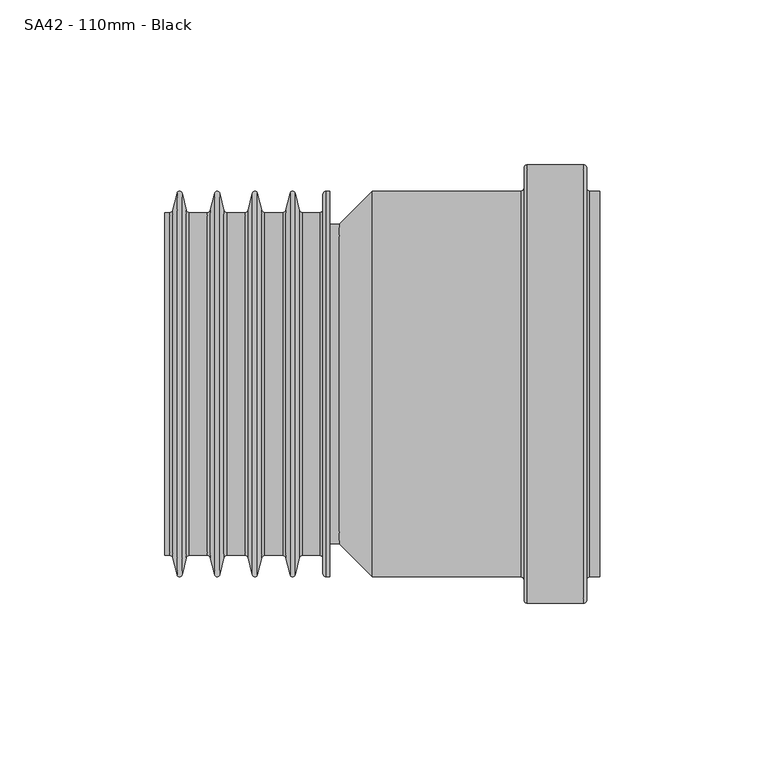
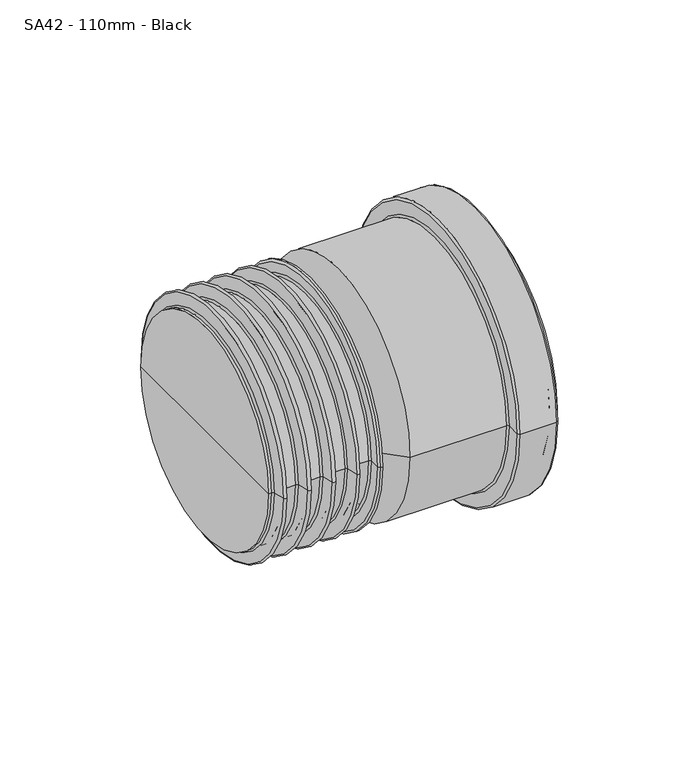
"""IFC4 building model written with IfcOpenShell, lengths in millimetres: pipe fitting geometry, MarleyPlumbingAndDrainage_PipeFitting_SoilDrainAdaptor : SA42 - 110mm - Black."""

from ifc_helpers import new_model, si_unit, point, frame, origin, place, context, project, spatial, polyline, circle_curve, ellipse_curve, trimmed, source, transform, mapped, element, save
from ifc_brep_helpers import plane_surface, cylinder_surface, revolved_surface, advanced_brep


def sa42_110mm_black_3e7455d2(model_context):
    return source(origin(), model_context, "Body", "AdvancedBrep", [
        advanced_brep(
        [(-18.8253818, -58.5, 0.0), (-18.8253818, 58.5, 0.0), (-17.8253818, 58.5, 0.0), (-17.8253818, -58.5, 0.0), (-19.8253818, -53.0, 0.0), (-19.8253818, 53.0, 0.0), (-19.8253818, 57.5, 0.0), (-19.8253818, -57.5, 0.0), (-26.0259977, -52.0, 0.0), (-26.0259977, 52.0, 0.0), (-20.8253818, 52.0, 0.0), (-20.8253818, -52.0, 0.0), (-28.2806136, -57.909205, 0.0), (-28.2806136, 57.909205, 0.0), (-26.9962935, 52.7580781, 0.0), (-26.9962935, -52.7580781, 0.0), (-31.0772708, -52.7580781, 0.0), (-31.0772708, 52.7580781, 0.0), (-29.7929506, 57.909205, 0.0), (-29.7929506, -57.909205, 0.0), (-37.4668968, -52.0, 0.0), (-37.4668968, 52.0, 0.0), (-32.0475665, 52.0, 0.0), (-32.0475665, -52.0, 0.0), (-67.8253818, 0.0, 0.0), (-67.8253818, 52.0, 0.0), (-67.8253818, -52.0, 0.0), (-17.8253818, 0.0, 0.0), (-38.4371925, -52.7580781, 0.0), (-38.4371925, 52.7580781, 0.0), (-39.7215127, -57.909205, 0.0), (-39.7215127, 57.909205, 0.0), (-41.2338496, -57.909205, 0.0), (-41.2338496, 57.909205, 0.0), (-42.5181698, -52.7580781, 0.0), (-42.5181698, 52.7580781, 0.0), (-43.4884655, -52.0, 0.0), (-43.4884655, 52.0, 0.0), (-48.9077958, -52.0, 0.0), (-48.9077958, 52.0, 0.0), (-49.8780915, -52.7580781, 0.0), (-49.8780915, 52.7580781, 0.0), (-51.1624117, -57.909205, 0.0), (-51.1624117, 57.909205, 0.0), (-52.6747486, -57.909205, 0.0), (-52.6747486, 57.909205, 0.0), (-53.9590688, -52.7580781, 0.0), (-53.9590688, 52.7580781, 0.0), (-54.9293645, -52.0, 0.0), (-54.9293645, 52.0, 0.0), (-60.3486948, -52.0, 0.0), (-60.3486948, 52.0, 0.0), (-61.3189905, -52.7580781, 0.0), (-61.3189905, 52.7580781, 0.0), (-62.6033107, -57.909205, 0.0), (-62.6033107, 57.909205, 0.0), (-64.1156477, -57.909205, 0.0), (-64.1156477, 57.909205, 0.0), (-65.3999678, -52.7580781, 0.0), (-65.3999678, 52.7580781, 0.0), (-66.3702636, -52.0, 0.0), (-66.3702636, 52.0, 0.0)],
        [
            (0, 1, circle_curve(frame((-18.8253818, 0.0, 0.0), z_axis=(1.0, 0.0, 0.0), x_axis=(0.0, 1.0, 0.0)), 58.5)),
            (1, 2),
            (2, 3, circle_curve(frame((-17.8253818, 0.0, 0.0), z_axis=(-1.0, 0.0, 0.0), x_axis=(0.0, 1.0, 0.0)), 58.5)),
            (3, 0),
            (1, 0, circle_curve(frame((-18.8253818, 0.0, 0.0), z_axis=(1.0, 0.0, 0.0), x_axis=(0.0, 1.0, 0.0)), 58.5)),
            (3, 2, circle_curve(frame((-17.8253818, 0.0, 0.0), z_axis=(-1.0, 0.0, 0.0), x_axis=(0.0, 1.0, 0.0)), 58.5)),
            (4, 5, circle_curve(frame((-19.8253818, 0.0, 0.0), z_axis=(1.0, 0.0, 0.0), x_axis=(0.0, 1.0, 0.0)), 53.0)),
            (5, 6),
            (6, 7, circle_curve(frame((-19.8253818, 0.0, 0.0), z_axis=(-1.0, 0.0, 0.0), x_axis=(0.0, 1.0, 0.0)), 57.5)),
            (7, 4),
            (5, 4, circle_curve(frame((-19.8253818, 0.0, 0.0), z_axis=(1.0, 0.0, 0.0), x_axis=(0.0, 1.0, 0.0)), 53.0)),
            (7, 6, circle_curve(frame((-19.8253818, 0.0, 0.0), z_axis=(-1.0, 0.0, 0.0), x_axis=(0.0, 1.0, 0.0)), 57.5)),
            (8, 9, circle_curve(frame((-26.0259977, 0.0, 0.0), z_axis=(1.0, 0.0, 0.0), x_axis=(0.0, 1.0, 0.0)), 52.0)),
            (9, 10),
            (10, 11, circle_curve(frame((-20.8253818, 0.0, 0.0), z_axis=(-1.0, 0.0, 0.0), x_axis=(0.0, 1.0, 0.0)), 52.0)),
            (11, 8),
            (9, 8, circle_curve(frame((-26.0259977, 0.0, 0.0), z_axis=(1.0, 0.0, 0.0), x_axis=(0.0, 1.0, 0.0)), 52.0)),
            (11, 10, circle_curve(frame((-20.8253818, 0.0, 0.0), z_axis=(-1.0, 0.0, 0.0), x_axis=(0.0, 1.0, 0.0)), 52.0)),
            (12, 13, circle_curve(frame((-28.2806136, 0.0, 0.0), z_axis=(1.0, 0.0, 0.0), x_axis=(0.0, 1.0, 0.0)), 57.909205)),
            (13, 14),
            (14, 15, circle_curve(frame((-26.9962935, 0.0, 0.0), z_axis=(-1.0, 0.0, 0.0), x_axis=(0.0, 1.0, 0.0)), 52.7580781)),
            (15, 12),
            (13, 12, circle_curve(frame((-28.2806136, 0.0, 0.0), z_axis=(1.0, 0.0, 0.0), x_axis=(0.0, 1.0, 0.0)), 57.909205)),
            (15, 14, circle_curve(frame((-26.9962935, 0.0, 0.0), z_axis=(-1.0, 0.0, 0.0), x_axis=(0.0, 1.0, 0.0)), 52.7580781)),
            (16, 17, circle_curve(frame((-31.0772708, 0.0, 0.0), z_axis=(1.0, 0.0, 0.0), x_axis=(0.0, 1.0, 0.0)), 52.7580781)),
            (17, 18),
            (18, 19, circle_curve(frame((-29.7929506, 0.0, 0.0), z_axis=(-1.0, 0.0, 0.0), x_axis=(0.0, 1.0, 0.0)), 57.909205)),
            (19, 16),
            (17, 16, circle_curve(frame((-31.0772708, 0.0, 0.0), z_axis=(1.0, 0.0, 0.0), x_axis=(0.0, 1.0, 0.0)), 52.7580781)),
            (19, 18, circle_curve(frame((-29.7929506, 0.0, 0.0), z_axis=(-1.0, 0.0, 0.0), x_axis=(0.0, 1.0, 0.0)), 57.909205)),
            (20, 21, circle_curve(frame((-37.4668968, 0.0, 0.0), z_axis=(1.0, 0.0, 0.0), x_axis=(0.0, 1.0, 0.0)), 52.0)),
            (21, 22),
            (22, 23, circle_curve(frame((-32.0475665, 0.0, 0.0), z_axis=(-1.0, 0.0, 0.0), x_axis=(0.0, 1.0, 0.0)), 52.0)),
            (23, 20),
            (21, 20, circle_curve(frame((-37.4668968, 0.0, 0.0), z_axis=(1.0, 0.0, 0.0), x_axis=(0.0, 1.0, 0.0)), 52.0)),
            (23, 22, circle_curve(frame((-32.0475665, 0.0, 0.0), z_axis=(-1.0, 0.0, 0.0), x_axis=(0.0, 1.0, 0.0)), 52.0)),
            (24, 25),
            (25, 26, circle_curve(frame((-67.8253818, 0.0, 0.0), z_axis=(-1.0, 0.0, 0.0), x_axis=(0.0, 1.0, 0.0)), 52.0)),
            (26, 24),
            (26, 25, circle_curve(frame((-67.8253818, 0.0, 0.0), z_axis=(-1.0, 0.0, 0.0), x_axis=(0.0, 1.0, 0.0)), 52.0)),
            (2, 27),
            (27, 3),
            (6, 1, circle_curve(frame((-18.8253818, 57.5, 0.0), z_axis=(0.0, 0.0, -1.0), x_axis=(1.0, 0.0, 0.0)), 1.0)),
            (0, 7, circle_curve(frame((-18.8253818, -57.5, 0.0), z_axis=(0.0, 0.0, -1.0), x_axis=(1.0, 0.0, 0.0)), 1.0)),
            (10, 5, circle_curve(frame((-20.8253818, 53.0, 0.0), z_axis=(0.0, 0.0, 1.0), x_axis=(1.0, 0.0, 0.0)), 1.0)),
            (4, 11, circle_curve(frame((-20.8253818, -53.0, 0.0), z_axis=(0.0, 0.0, 1.0), x_axis=(1.0, 0.0, 0.0)), 1.0)),
            (14, 9, circle_curve(frame((-26.0259977, 53.0, 0.0), z_axis=(0.0, 0.0, 1.0), x_axis=(1.0, 0.0, 0.0)), 1.0)),
            (8, 15, circle_curve(frame((-26.0259977, -53.0, 0.0), z_axis=(0.0, 0.0, 1.0), x_axis=(1.0, 0.0, 0.0)), 1.0)),
            (18, 13, circle_curve(frame((-29.0367821, 57.720671, 0.0), z_axis=(0.0, 0.0, -1.0), x_axis=(1.0, 0.0, 0.0)), 0.7793175)),
            (12, 19, circle_curve(frame((-29.0367821, -57.720671, 0.0), z_axis=(0.0, 0.0, -1.0), x_axis=(1.0, 0.0, 0.0)), 0.7793175)),
            (22, 17, circle_curve(frame((-32.0475665, 53.0, 0.0), z_axis=(0.0, 0.0, 1.0), x_axis=(1.0, 0.0, 0.0)), 1.0)),
            (16, 23, circle_curve(frame((-32.0475665, -53.0, 0.0), z_axis=(0.0, 0.0, 1.0), x_axis=(1.0, 0.0, 0.0)), 1.0)),
            (28, 29, circle_curve(frame((-38.4371925, 0.0, 0.0), z_axis=(1.0, 0.0, 0.0), x_axis=(0.0, 1.0, 0.0)), 52.7580781)),
            (29, 21, circle_curve(frame((-37.4668968, 53.0, 0.0), z_axis=(0.0, 0.0, 1.0), x_axis=(1.0, 0.0, 0.0)), 1.0)),
            (20, 28, circle_curve(frame((-37.4668968, -53.0, 0.0), z_axis=(0.0, 0.0, 1.0), x_axis=(1.0, 0.0, 0.0)), 1.0)),
            (29, 28, circle_curve(frame((-38.4371925, 0.0, 0.0), z_axis=(1.0, 0.0, 0.0), x_axis=(0.0, 1.0, 0.0)), 52.7580781)),
            (30, 31, circle_curve(frame((-39.7215127, 0.0, 0.0), z_axis=(1.0, 0.0, 0.0), x_axis=(0.0, 1.0, 0.0)), 57.909205)),
            (31, 29),
            (28, 30),
            (31, 30, circle_curve(frame((-39.7215127, 0.0, 0.0), z_axis=(1.0, 0.0, 0.0), x_axis=(0.0, 1.0, 0.0)), 57.909205)),
            (32, 33, circle_curve(frame((-41.2338496, 0.0, 0.0), z_axis=(1.0, 0.0, 0.0), x_axis=(0.0, 1.0, 0.0)), 57.909205)),
            (33, 31, circle_curve(frame((-40.4776811, 57.720671, 0.0), z_axis=(0.0, 0.0, -1.0), x_axis=(1.0, 0.0, 0.0)), 0.7793175)),
            (30, 32, circle_curve(frame((-40.4776811, -57.720671, 0.0), z_axis=(0.0, 0.0, -1.0), x_axis=(1.0, 0.0, 0.0)), 0.7793175)),
            (33, 32, circle_curve(frame((-41.2338496, 0.0, 0.0), z_axis=(1.0, 0.0, 0.0), x_axis=(0.0, 1.0, 0.0)), 57.909205)),
            (34, 35, circle_curve(frame((-42.5181698, 0.0, 0.0), z_axis=(1.0, 0.0, 0.0), x_axis=(0.0, 1.0, 0.0)), 52.7580781)),
            (35, 33),
            (32, 34),
            (35, 34, circle_curve(frame((-42.5181698, 0.0, 0.0), z_axis=(1.0, 0.0, 0.0), x_axis=(0.0, 1.0, 0.0)), 52.7580781)),
            (36, 37, circle_curve(frame((-43.4884655, 0.0, 0.0), z_axis=(1.0, 0.0, 0.0), x_axis=(0.0, 1.0, 0.0)), 52.0)),
            (37, 35, circle_curve(frame((-43.4884655, 53.0, 0.0), z_axis=(0.0, 0.0, 1.0), x_axis=(1.0, 0.0, 0.0)), 1.0)),
            (34, 36, circle_curve(frame((-43.4884655, -53.0, 0.0), z_axis=(0.0, 0.0, 1.0), x_axis=(1.0, 0.0, 0.0)), 1.0)),
            (37, 36, circle_curve(frame((-43.4884655, 0.0, 0.0), z_axis=(1.0, 0.0, 0.0), x_axis=(0.0, 1.0, 0.0)), 52.0)),
            (38, 39, circle_curve(frame((-48.9077958, 0.0, 0.0), z_axis=(1.0, 0.0, 0.0), x_axis=(0.0, 1.0, 0.0)), 52.0)),
            (39, 37),
            (36, 38),
            (39, 38, circle_curve(frame((-48.9077958, 0.0, 0.0), z_axis=(1.0, 0.0, 0.0), x_axis=(0.0, 1.0, 0.0)), 52.0)),
            (40, 41, circle_curve(frame((-49.8780915, 0.0, 0.0), z_axis=(1.0, 0.0, 0.0), x_axis=(0.0, 1.0, 0.0)), 52.7580781)),
            (41, 39, circle_curve(frame((-48.9077958, 53.0, 0.0), z_axis=(0.0, 0.0, 1.0), x_axis=(1.0, 0.0, 0.0)), 1.0)),
            (38, 40, circle_curve(frame((-48.9077958, -53.0, 0.0), z_axis=(0.0, 0.0, 1.0), x_axis=(1.0, 0.0, 0.0)), 1.0)),
            (41, 40, circle_curve(frame((-49.8780915, 0.0, 0.0), z_axis=(1.0, 0.0, 0.0), x_axis=(0.0, 1.0, 0.0)), 52.7580781)),
            (42, 43, circle_curve(frame((-51.1624117, 0.0, 0.0), z_axis=(1.0, 0.0, 0.0), x_axis=(0.0, 1.0, 0.0)), 57.909205)),
            (43, 41),
            (40, 42),
            (43, 42, circle_curve(frame((-51.1624117, 0.0, 0.0), z_axis=(1.0, 0.0, 0.0), x_axis=(0.0, 1.0, 0.0)), 57.909205)),
            (44, 45, circle_curve(frame((-52.6747486, 0.0, 0.0), z_axis=(1.0, 0.0, 0.0), x_axis=(0.0, 1.0, 0.0)), 57.909205)),
            (45, 43, circle_curve(frame((-51.9185802, 57.720671, 0.0), z_axis=(0.0, 0.0, -1.0), x_axis=(1.0, 0.0, 0.0)), 0.7793175)),
            (42, 44, circle_curve(frame((-51.9185802, -57.720671, 0.0), z_axis=(0.0, 0.0, -1.0), x_axis=(1.0, 0.0, 0.0)), 0.7793175)),
            (45, 44, circle_curve(frame((-52.6747486, 0.0, 0.0), z_axis=(1.0, 0.0, 0.0), x_axis=(0.0, 1.0, 0.0)), 57.909205)),
            (46, 47, circle_curve(frame((-53.9590688, 0.0, 0.0), z_axis=(1.0, 0.0, 0.0), x_axis=(0.0, 1.0, 0.0)), 52.7580781)),
            (47, 45),
            (44, 46),
            (47, 46, circle_curve(frame((-53.9590688, 0.0, 0.0), z_axis=(1.0, 0.0, 0.0), x_axis=(0.0, 1.0, 0.0)), 52.7580781)),
            (48, 49, circle_curve(frame((-54.9293645, 0.0, 0.0), z_axis=(1.0, 0.0, 0.0), x_axis=(0.0, 1.0, 0.0)), 52.0)),
            (49, 47, circle_curve(frame((-54.9293645, 53.0, 0.0), z_axis=(0.0, 0.0, 1.0), x_axis=(1.0, 0.0, 0.0)), 1.0)),
            (46, 48, circle_curve(frame((-54.9293645, -53.0, 0.0), z_axis=(0.0, 0.0, 1.0), x_axis=(1.0, 0.0, 0.0)), 1.0)),
            (49, 48, circle_curve(frame((-54.9293645, 0.0, 0.0), z_axis=(1.0, 0.0, 0.0), x_axis=(0.0, 1.0, 0.0)), 52.0)),
            (50, 51, circle_curve(frame((-60.3486948, 0.0, 0.0), z_axis=(1.0, 0.0, 0.0), x_axis=(0.0, 1.0, 0.0)), 52.0)),
            (51, 49),
            (48, 50),
            (51, 50, circle_curve(frame((-60.3486948, 0.0, 0.0), z_axis=(1.0, 0.0, 0.0), x_axis=(0.0, 1.0, 0.0)), 52.0)),
            (52, 53, circle_curve(frame((-61.3189905, 0.0, 0.0), z_axis=(1.0, 0.0, 0.0), x_axis=(0.0, 1.0, 0.0)), 52.7580781)),
            (53, 51, circle_curve(frame((-60.3486948, 53.0, 0.0), z_axis=(0.0, 0.0, 1.0), x_axis=(1.0, 0.0, 0.0)), 1.0)),
            (50, 52, circle_curve(frame((-60.3486948, -53.0, 0.0), z_axis=(0.0, 0.0, 1.0), x_axis=(1.0, 0.0, 0.0)), 1.0)),
            (53, 52, circle_curve(frame((-61.3189905, 0.0, 0.0), z_axis=(1.0, 0.0, 0.0), x_axis=(0.0, 1.0, 0.0)), 52.7580781)),
            (54, 55, circle_curve(frame((-62.6033107, 0.0, 0.0), z_axis=(1.0, 0.0, 0.0), x_axis=(0.0, 1.0, 0.0)), 57.909205)),
            (55, 53),
            (52, 54),
            (55, 54, circle_curve(frame((-62.6033107, 0.0, 0.0), z_axis=(1.0, 0.0, 0.0), x_axis=(0.0, 1.0, 0.0)), 57.909205)),
            (56, 57, circle_curve(frame((-64.1156477, 0.0, 0.0), z_axis=(1.0, 0.0, 0.0), x_axis=(0.0, 1.0, 0.0)), 57.909205)),
            (57, 55, circle_curve(frame((-63.3594792, 57.720671, 0.0), z_axis=(0.0, 0.0, -1.0), x_axis=(1.0, 0.0, 0.0)), 0.7793175)),
            (54, 56, circle_curve(frame((-63.3594792, -57.720671, 0.0), z_axis=(0.0, 0.0, -1.0), x_axis=(1.0, 0.0, 0.0)), 0.7793175)),
            (57, 56, circle_curve(frame((-64.1156477, 0.0, 0.0), z_axis=(1.0, 0.0, 0.0), x_axis=(0.0, 1.0, 0.0)), 57.909205)),
            (58, 59, circle_curve(frame((-65.3999678, 0.0, 0.0), z_axis=(1.0, 0.0, 0.0), x_axis=(0.0, 1.0, 0.0)), 52.7580781)),
            (59, 57),
            (56, 58),
            (59, 58, circle_curve(frame((-65.3999678, 0.0, 0.0), z_axis=(1.0, 0.0, 0.0), x_axis=(0.0, 1.0, 0.0)), 52.7580781)),
            (60, 61, circle_curve(frame((-66.3702636, 0.0, 0.0), z_axis=(1.0, 0.0, 0.0), x_axis=(0.0, 1.0, 0.0)), 52.0)),
            (61, 59, circle_curve(frame((-66.3702636, 53.0, 0.0), z_axis=(0.0, 0.0, 1.0), x_axis=(1.0, 0.0, 0.0)), 1.0)),
            (58, 60, circle_curve(frame((-66.3702636, -53.0, 0.0), z_axis=(0.0, 0.0, 1.0), x_axis=(1.0, 0.0, 0.0)), 1.0)),
            (61, 60, circle_curve(frame((-66.3702636, 0.0, 0.0), z_axis=(1.0, 0.0, 0.0), x_axis=(0.0, 1.0, 0.0)), 52.0)),
            (25, 61),
            (60, 26),
        ],
        [
            cylinder_surface(frame((2000.0, 0.0, 0.0), z_axis=(-1.0, 0.0, 0.0), x_axis=(0.0, 1.0, 0.0)), 58.5),
            plane_surface(frame((-19.8253818, 0.0, 0.0), z_axis=(-1.0, 0.0, 0.0), x_axis=(0.0, 1.0, 0.0))),
            cylinder_surface(frame((2000.0, 0.0, 0.0), z_axis=(-1.0, 0.0, 0.0), x_axis=(0.0, 1.0, 0.0)), 52.0),
            revolved_surface(polyline([(-26.9962935, 52.7580781, 0.0), (-28.2806136, 57.909205, 0.0)]), (2000.0, 0.0, 0.0), (-1.0, 0.0, 0.0)),
            revolved_surface(polyline([(-29.7929506, 57.909205, 0.0), (-31.0772708, 52.7580781, 0.0)]), (2000.0, 0.0, 0.0), (-1.0, 0.0, 0.0)),
            plane_surface(frame((-67.8253818, 0.0, 0.0), z_axis=(-1.0, 0.0, 0.0), x_axis=(0.0, 1.0, 0.0))),
            plane_surface(frame((-17.8253818, 0.0, 0.0), z_axis=(1.0, 0.0, 0.0), x_axis=(0.0, 1.0, 0.0))),
            revolved_surface(trimmed(ellipse_curve(frame((-18.8253818, 57.5, 0.0), z_axis=(0.0, 0.0, 1.0), x_axis=(1.0, 0.0, 0.0)), 1.0, 1.0), [point((-18.8253818, 58.5, 0.0))], [point((-19.8253818, 57.5, 0.0))], True, "CARTESIAN"), (2000.0, 0.0, 0.0), (-1.0, 0.0, 0.0)),
            revolved_surface(trimmed(ellipse_curve(frame((-20.8253818, 53.0, 0.0), z_axis=(0.0, 0.0, -1.0), x_axis=(1.0, 0.0, 0.0)), 1.0, 1.0), [point((-19.8253818, 53.0, 0.0))], [point((-20.8253818, 52.0, 0.0))], True, "CARTESIAN"), (2000.0, 0.0, 0.0), (-1.0, 0.0, 0.0)),
            revolved_surface(trimmed(ellipse_curve(frame((-26.0259977, 53.0, 0.0), z_axis=(0.0, 0.0, -1.0), x_axis=(1.0, 0.0, 0.0)), 1.0, 1.0), [point((-26.0259977, 52.0, 0.0))], [point((-26.9962935, 52.7580781, 0.0))], True, "CARTESIAN"), (2000.0, 0.0, 0.0), (-1.0, 0.0, 0.0)),
            revolved_surface(trimmed(ellipse_curve(frame((-29.0367821, 57.720671, 0.0), z_axis=(0.0, 0.0, 1.0), x_axis=(1.0, 0.0, 0.0)), 0.7793175, 0.7793175), [point((-28.2806136, 57.909205, 0.0))], [point((-29.7929506, 57.909205, 0.0))], True, "CARTESIAN"), (2000.0, 0.0, 0.0), (-1.0, 0.0, 0.0)),
            revolved_surface(trimmed(ellipse_curve(frame((-32.0475665, 53.0, 0.0), z_axis=(0.0, 0.0, -1.0), x_axis=(1.0, 0.0, 0.0)), 1.0, 1.0), [point((-31.0772708, 52.7580781, 0.0))], [point((-32.0475665, 52.0, 0.0))], True, "CARTESIAN"), (2000.0, 0.0, 0.0), (-1.0, 0.0, 0.0)),
            revolved_surface(trimmed(ellipse_curve(frame((-37.4668968, 53.0, 0.0), z_axis=(0.0, 0.0, -1.0), x_axis=(1.0, 0.0, 0.0)), 1.0, 1.0), [point((-37.4668968, 52.0, 0.0))], [point((-38.4371925, 52.7580781, 0.0))], True, "CARTESIAN"), (2000.0, 0.0, 0.0), (-1.0, 0.0, 0.0)),
            revolved_surface(polyline([(-38.4371925, 52.7580781, 0.0), (-39.7215127, 57.909205, 0.0)]), (2000.0, 0.0, 0.0), (-1.0, 0.0, 0.0)),
            revolved_surface(trimmed(ellipse_curve(frame((-40.4776811, 57.720671, 0.0), z_axis=(0.0, 0.0, 1.0), x_axis=(1.0, 0.0, 0.0)), 0.7793175, 0.7793175), [point((-39.7215127, 57.909205, 0.0))], [point((-41.2338496, 57.909205, 0.0))], True, "CARTESIAN"), (2000.0, 0.0, 0.0), (-1.0, 0.0, 0.0)),
            revolved_surface(polyline([(-41.2338496, 57.909205, 0.0), (-42.5181698, 52.7580781, 0.0)]), (2000.0, 0.0, 0.0), (-1.0, 0.0, 0.0)),
            revolved_surface(trimmed(ellipse_curve(frame((-43.4884655, 53.0, 0.0), z_axis=(0.0, 0.0, -1.0), x_axis=(1.0, 0.0, 0.0)), 1.0, 1.0), [point((-42.5181698, 52.7580781, 0.0))], [point((-43.4884655, 52.0, 0.0))], True, "CARTESIAN"), (2000.0, 0.0, 0.0), (-1.0, 0.0, 0.0)),
            revolved_surface(trimmed(ellipse_curve(frame((-48.9077958, 53.0, 0.0), z_axis=(0.0, 0.0, -1.0), x_axis=(1.0, 0.0, 0.0)), 1.0, 1.0), [point((-48.9077958, 52.0, 0.0))], [point((-49.8780915, 52.7580781, 0.0))], True, "CARTESIAN"), (2000.0, 0.0, 0.0), (-1.0, 0.0, 0.0)),
            revolved_surface(polyline([(-49.8780915, 52.7580781, 0.0), (-51.1624117, 57.909205, 0.0)]), (2000.0, 0.0, 0.0), (-1.0, 0.0, 0.0)),
            revolved_surface(trimmed(ellipse_curve(frame((-51.9185802, 57.720671, 0.0), z_axis=(0.0, 0.0, 1.0), x_axis=(1.0, 0.0, 0.0)), 0.7793175, 0.7793175), [point((-51.1624117, 57.909205, 0.0))], [point((-52.6747486, 57.909205, 0.0))], True, "CARTESIAN"), (2000.0, 0.0, 0.0), (-1.0, 0.0, 0.0)),
            revolved_surface(polyline([(-52.6747486, 57.909205, 0.0), (-53.9590688, 52.7580781, 0.0)]), (2000.0, 0.0, 0.0), (-1.0, 0.0, 0.0)),
            revolved_surface(trimmed(ellipse_curve(frame((-54.9293645, 53.0, 0.0), z_axis=(0.0, 0.0, -1.0), x_axis=(1.0, 0.0, 0.0)), 1.0, 1.0), [point((-53.9590688, 52.7580781, 0.0))], [point((-54.9293645, 52.0, 0.0))], True, "CARTESIAN"), (2000.0, 0.0, 0.0), (-1.0, 0.0, 0.0)),
            revolved_surface(trimmed(ellipse_curve(frame((-60.3486948, 53.0, 0.0), z_axis=(0.0, 0.0, -1.0), x_axis=(1.0, 0.0, 0.0)), 1.0, 1.0), [point((-60.3486948, 52.0, 0.0))], [point((-61.3189905, 52.7580781, 0.0))], True, "CARTESIAN"), (2000.0, 0.0, 0.0), (-1.0, 0.0, 0.0)),
            revolved_surface(polyline([(-61.3189905, 52.7580781, 0.0), (-62.6033107, 57.909205, 0.0)]), (2000.0, 0.0, 0.0), (-1.0, 0.0, 0.0)),
            revolved_surface(trimmed(ellipse_curve(frame((-63.3594792, 57.720671, 0.0), z_axis=(0.0, 0.0, 1.0), x_axis=(1.0, 0.0, 0.0)), 0.7793175, 0.7793175), [point((-62.6033107, 57.909205, 0.0))], [point((-64.1156477, 57.909205, 0.0))], True, "CARTESIAN"), (2000.0, 0.0, 0.0), (-1.0, 0.0, 0.0)),
            revolved_surface(polyline([(-64.1156477, 57.909205, 0.0), (-65.3999678, 52.7580781, 0.0)]), (2000.0, 0.0, 0.0), (-1.0, 0.0, 0.0)),
            revolved_surface(trimmed(ellipse_curve(frame((-66.3702636, 53.0, 0.0), z_axis=(0.0, 0.0, -1.0), x_axis=(1.0, 0.0, 0.0)), 1.0, 1.0), [point((-65.3999678, 52.7580781, 0.0))], [point((-66.3702636, 52.0, 0.0))], True, "CARTESIAN"), (2000.0, 0.0, 0.0), (-1.0, 0.0, 0.0)),
        ],
        [
            (0, [[1, 2, 3, 4]]),
            (0, [[5, -4, 6, -2]]),
            (1, [[7, 8, 9, 10]]),
            (1, [[11, -10, 12, -8]]),
            (2, [[13, 14, 15, 16]]),
            (2, [[17, -16, 18, -14]]),
            (3, [[19, 20, 21, 22]]),
            (3, [[23, -22, 24, -20]]),
            (4, [[25, 26, 27, 28]]),
            (4, [[29, -28, 30, -26]]),
            (2, [[31, 32, 33, 34]]),
            (2, [[35, -34, 36, -32]]),
            (5, [[37, 38, 39]]),
            (5, [[-39, 40, -37]]),
            (6, [[-3, 41, 42]]),
            (6, [[-6, -42, -41]]),
            (7, [[-9, 43, -1, 44]]),
            (7, [[-12, -44, -5, -43]]),
            (8, [[-15, 45, -7, 46]]),
            (8, [[-18, -46, -11, -45]]),
            (9, [[-21, 47, -13, 48]]),
            (9, [[-24, -48, -17, -47]]),
            (10, [[-27, 49, -19, 50]]),
            (10, [[-30, -50, -23, -49]]),
            (11, [[-33, 51, -25, 52]]),
            (11, [[-36, -52, -29, -51]]),
            (12, [[53, 54, -31, 55]]),
            (12, [[56, -55, -35, -54]]),
            (13, [[57, 58, -53, 59]]),
            (13, [[60, -59, -56, -58]]),
            (14, [[61, 62, -57, 63]]),
            (14, [[64, -63, -60, -62]]),
            (15, [[65, 66, -61, 67]]),
            (15, [[68, -67, -64, -66]]),
            (16, [[69, 70, -65, 71]]),
            (16, [[72, -71, -68, -70]]),
            (2, [[73, 74, -69, 75]]),
            (2, [[76, -75, -72, -74]]),
            (17, [[77, 78, -73, 79]]),
            (17, [[80, -79, -76, -78]]),
            (18, [[81, 82, -77, 83]]),
            (18, [[84, -83, -80, -82]]),
            (19, [[85, 86, -81, 87]]),
            (19, [[88, -87, -84, -86]]),
            (20, [[89, 90, -85, 91]]),
            (20, [[92, -91, -88, -90]]),
            (21, [[93, 94, -89, 95]]),
            (21, [[96, -95, -92, -94]]),
            (2, [[97, 98, -93, 99]]),
            (2, [[100, -99, -96, -98]]),
            (22, [[101, 102, -97, 103]]),
            (22, [[104, -103, -100, -102]]),
            (23, [[105, 106, -101, 107]]),
            (23, [[108, -107, -104, -106]]),
            (24, [[109, 110, -105, 111]]),
            (24, [[112, -111, -108, -110]]),
            (25, [[113, 114, -109, 115]]),
            (25, [[116, -115, -112, -114]]),
            (26, [[117, 118, -113, 119]]),
            (26, [[120, -119, -116, -118]]),
            (2, [[-38, 121, -117, 122]]),
            (2, [[-40, -122, -120, -121]]),
        ],
    ),
        advanced_brep(
        [(61.1746182, -58.5, 0.0), (61.1746182, 58.5, 0.0), (64.1746182, 58.5, 0.0), (64.1746182, -58.5, 0.0), (60.1746182, -65.5, 0.0), (60.1746182, 65.5, 0.0), (60.1746182, 59.5, 0.0), (60.1746182, -59.5, 0.0), (42.1746182, -66.5, 0.0), (42.1746182, 66.5, 0.0), (59.1746182, 66.5, 0.0), (59.1746182, -66.5, 0.0), (41.1746182, -59.5, 0.0), (41.1746182, 59.5, 0.0), (41.1746182, 65.5, 0.0), (41.1746182, -65.5, 0.0), (-4.8253818, -58.5, 0.0), (-4.8253818, 58.5, 0.0), (40.1746182, 58.5, 0.0), (40.1746182, -58.5, 0.0), (-14.8253818, -48.5, 0.0), (-14.8253818, 48.5, 0.0), (-17.8253818, 0.0, 0.0), (-17.8253818, 48.5, 0.0), (-17.8253818, -48.5, 0.0), (-4.8253818, -55.0, 0.0), (-4.8253818, 55.0, 0.0), (-4.8253818, 0.0, 0.0), (64.1746182, -55.0, 0.0), (64.1746182, 55.0, 0.0)],
        [
            (0, 1, circle_curve(frame((61.1746182, 0.0, 0.0), z_axis=(1.0, 0.0, 0.0), x_axis=(0.0, 1.0, 0.0)), 58.5)),
            (1, 2),
            (2, 3, circle_curve(frame((64.1746182, 0.0, 0.0), z_axis=(-1.0, 0.0, 0.0), x_axis=(0.0, 1.0, 0.0)), 58.5)),
            (3, 0),
            (1, 0, circle_curve(frame((61.1746182, 0.0, 0.0), z_axis=(1.0, 0.0, 0.0), x_axis=(0.0, 1.0, 0.0)), 58.5)),
            (3, 2, circle_curve(frame((64.1746182, 0.0, 0.0), z_axis=(-1.0, 0.0, 0.0), x_axis=(0.0, 1.0, 0.0)), 58.5)),
            (4, 5, circle_curve(frame((60.1746182, 0.0, 0.0), z_axis=(1.0, 0.0, 0.0), x_axis=(0.0, 1.0, 0.0)), 65.5)),
            (5, 6),
            (6, 7, circle_curve(frame((60.1746182, 0.0, 0.0), z_axis=(-1.0, 0.0, 0.0), x_axis=(0.0, 1.0, 0.0)), 59.5)),
            (7, 4),
            (5, 4, circle_curve(frame((60.1746182, 0.0, 0.0), z_axis=(1.0, 0.0, 0.0), x_axis=(0.0, 1.0, 0.0)), 65.5)),
            (7, 6, circle_curve(frame((60.1746182, 0.0, 0.0), z_axis=(-1.0, 0.0, 0.0), x_axis=(0.0, 1.0, 0.0)), 59.5)),
            (8, 9, circle_curve(frame((42.1746182, 0.0, 0.0), z_axis=(1.0, 0.0, 0.0), x_axis=(0.0, 1.0, 0.0)), 66.5)),
            (9, 10),
            (10, 11, circle_curve(frame((59.1746182, 0.0, 0.0), z_axis=(-1.0, 0.0, 0.0), x_axis=(0.0, 1.0, 0.0)), 66.5)),
            (11, 8),
            (9, 8, circle_curve(frame((42.1746182, 0.0, 0.0), z_axis=(1.0, 0.0, 0.0), x_axis=(0.0, 1.0, 0.0)), 66.5)),
            (11, 10, circle_curve(frame((59.1746182, 0.0, 0.0), z_axis=(-1.0, 0.0, 0.0), x_axis=(0.0, 1.0, 0.0)), 66.5)),
            (12, 13, circle_curve(frame((41.1746182, 0.0, 0.0), z_axis=(1.0, 0.0, 0.0), x_axis=(0.0, 1.0, 0.0)), 59.5)),
            (13, 14),
            (14, 15, circle_curve(frame((41.1746182, 0.0, 0.0), z_axis=(-1.0, 0.0, 0.0), x_axis=(0.0, 1.0, 0.0)), 65.5)),
            (15, 12),
            (13, 12, circle_curve(frame((41.1746182, 0.0, 0.0), z_axis=(1.0, 0.0, 0.0), x_axis=(0.0, 1.0, 0.0)), 59.5)),
            (15, 14, circle_curve(frame((41.1746182, 0.0, 0.0), z_axis=(-1.0, 0.0, 0.0), x_axis=(0.0, 1.0, 0.0)), 65.5)),
            (16, 17, circle_curve(frame((-4.8253818, 0.0, 0.0), z_axis=(1.0, 0.0, 0.0), x_axis=(0.0, 1.0, 0.0)), 58.5)),
            (17, 18),
            (18, 19, circle_curve(frame((40.1746182, 0.0, 0.0), z_axis=(-1.0, 0.0, 0.0), x_axis=(0.0, 1.0, 0.0)), 58.5)),
            (19, 16),
            (17, 16, circle_curve(frame((-4.8253818, 0.0, 0.0), z_axis=(1.0, 0.0, 0.0), x_axis=(0.0, 1.0, 0.0)), 58.5)),
            (19, 18, circle_curve(frame((40.1746182, 0.0, 0.0), z_axis=(-1.0, 0.0, 0.0), x_axis=(0.0, 1.0, 0.0)), 58.5)),
            (20, 21, circle_curve(frame((-14.8253818, 0.0, 0.0), z_axis=(1.0, 0.0, 0.0), x_axis=(0.0, 1.0, 0.0)), 48.5)),
            (21, 17),
            (16, 20),
            (21, 20, circle_curve(frame((-14.8253818, 0.0, 0.0), z_axis=(1.0, 0.0, 0.0), x_axis=(0.0, 1.0, 0.0)), 48.5)),
            (22, 23),
            (23, 24, circle_curve(frame((-17.8253818, 0.0, 0.0), z_axis=(-1.0, 0.0, 0.0), x_axis=(0.0, 1.0, 0.0)), 48.5)),
            (24, 22),
            (24, 23, circle_curve(frame((-17.8253818, 0.0, 0.0), z_axis=(-1.0, 0.0, 0.0), x_axis=(0.0, 1.0, 0.0)), 48.5)),
            (25, 26, circle_curve(frame((-4.8253818, 0.0, 0.0), z_axis=(1.0, 0.0, 0.0), x_axis=(0.0, 1.0, 0.0)), 55.0)),
            (26, 27),
            (27, 25),
            (26, 25, circle_curve(frame((-4.8253818, 0.0, 0.0), z_axis=(1.0, 0.0, 0.0), x_axis=(0.0, 1.0, 0.0)), 55.0)),
            (28, 29, circle_curve(frame((64.1746182, 0.0, 0.0), z_axis=(1.0, 0.0, 0.0), x_axis=(0.0, 1.0, 0.0)), 55.0)),
            (29, 26),
            (25, 28),
            (29, 28, circle_curve(frame((64.1746182, 0.0, 0.0), z_axis=(1.0, 0.0, 0.0), x_axis=(0.0, 1.0, 0.0)), 55.0)),
            (2, 29),
            (28, 3),
            (6, 1, circle_curve(frame((61.1746182, 59.5, 0.0), z_axis=(0.0, 0.0, 1.0), x_axis=(1.0, 0.0, 0.0)), 1.0)),
            (0, 7, circle_curve(frame((61.1746182, -59.5, 0.0), z_axis=(0.0, 0.0, 1.0), x_axis=(1.0, 0.0, 0.0)), 1.0)),
            (10, 5, circle_curve(frame((59.1746182, 65.5, 0.0), z_axis=(0.0, 0.0, -1.0), x_axis=(1.0, 0.0, 0.0)), 1.0)),
            (4, 11, circle_curve(frame((59.1746182, -65.5, 0.0), z_axis=(0.0, 0.0, -1.0), x_axis=(1.0, 0.0, 0.0)), 1.0)),
            (14, 9, circle_curve(frame((42.1746182, 65.5, 0.0), z_axis=(0.0, 0.0, -1.0), x_axis=(1.0, 0.0, 0.0)), 1.0)),
            (8, 15, circle_curve(frame((42.1746182, -65.5, 0.0), z_axis=(0.0, 0.0, -1.0), x_axis=(1.0, 0.0, 0.0)), 1.0)),
            (18, 13, circle_curve(frame((40.1746182, 59.5, 0.0), z_axis=(0.0, 0.0, 1.0), x_axis=(1.0, 0.0, 0.0)), 1.0)),
            (12, 19, circle_curve(frame((40.1746182, -59.5, 0.0), z_axis=(0.0, 0.0, 1.0), x_axis=(1.0, 0.0, 0.0)), 1.0)),
            (23, 21),
            (20, 24),
        ],
        [
            cylinder_surface(frame((2006.5, 0.0, 0.0), z_axis=(-1.0, 0.0, 0.0), x_axis=(0.0, 1.0, 0.0)), 58.5),
            plane_surface(frame((60.1746182, 0.0, 0.0), z_axis=(1.0, 0.0, 0.0), x_axis=(0.0, 1.0, 0.0))),
            cylinder_surface(frame((2006.5, 0.0, 0.0), z_axis=(-1.0, 0.0, 0.0), x_axis=(0.0, 1.0, 0.0)), 66.5),
            plane_surface(frame((41.1746182, 0.0, 0.0), z_axis=(-1.0, 0.0, 0.0), x_axis=(0.0, 1.0, 0.0))),
            revolved_surface(polyline([(-4.8253818, 58.5, 0.0), (-14.8253818, 48.5, 0.0)]), (2006.5, 0.0, 0.0), (-1.0, 0.0, 0.0)),
            plane_surface(frame((-17.8253818, 0.0, 0.0), z_axis=(-1.0, 0.0, 0.0), x_axis=(0.0, 1.0, 0.0))),
            plane_surface(frame((-4.8253818, 0.0, 0.0), z_axis=(1.0, 0.0, 0.0), x_axis=(0.0, 1.0, 0.0))),
            revolved_surface(polyline([(-4.825381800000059, 55.0, 0.0), (64.17461819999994, 55.0, 0.0)]), (2006.5, 0.0, 0.0), (-1.0, 0.0, 0.0)),
            plane_surface(frame((64.1746182, 0.0, 0.0), z_axis=(1.0, 0.0, 0.0), x_axis=(0.0, 1.0, 0.0))),
            revolved_surface(trimmed(ellipse_curve(frame((61.1746182, 59.5, 0.0), z_axis=(0.0, 0.0, -1.0), x_axis=(1.0, 0.0, 0.0)), 1.0, 1.0), [point((61.1746182, 58.5, 0.0))], [point((60.1746182, 59.5, 0.0))], True, "CARTESIAN"), (2006.5, 0.0, 0.0), (-1.0, 0.0, 0.0)),
            revolved_surface(trimmed(ellipse_curve(frame((59.1746182, 65.5, 0.0), z_axis=(0.0, 0.0, 1.0), x_axis=(1.0, 0.0, 0.0)), 1.0, 1.0), [point((60.1746182, 65.5, 0.0))], [point((59.1746182, 66.5, 0.0))], True, "CARTESIAN"), (2006.5, 0.0, 0.0), (-1.0, 0.0, 0.0)),
            revolved_surface(trimmed(ellipse_curve(frame((42.1746182, 65.5, 0.0), z_axis=(0.0, 0.0, 1.0), x_axis=(1.0, 0.0, 0.0)), 1.0, 1.0), [point((42.1746182, 66.5, 0.0))], [point((41.1746182, 65.5, 0.0))], True, "CARTESIAN"), (2006.5, 0.0, 0.0), (-1.0, 0.0, 0.0)),
            revolved_surface(trimmed(ellipse_curve(frame((40.1746182, 59.5, 0.0), z_axis=(0.0, 0.0, -1.0), x_axis=(1.0, 0.0, 0.0)), 1.0, 1.0), [point((41.1746182, 59.5, 0.0))], [point((40.1746182, 58.5, 0.0))], True, "CARTESIAN"), (2006.5, 0.0, 0.0), (-1.0, 0.0, 0.0)),
            cylinder_surface(frame((2006.5, 0.0, 0.0), z_axis=(-1.0, 0.0, 0.0), x_axis=(0.0, 1.0, 0.0)), 48.5),
        ],
        [
            (0, [[1, 2, 3, 4]]),
            (0, [[5, -4, 6, -2]]),
            (1, [[7, 8, 9, 10]]),
            (1, [[11, -10, 12, -8]]),
            (2, [[13, 14, 15, 16]]),
            (2, [[17, -16, 18, -14]]),
            (3, [[19, 20, 21, 22]]),
            (3, [[23, -22, 24, -20]]),
            (0, [[25, 26, 27, 28]]),
            (0, [[29, -28, 30, -26]]),
            (4, [[31, 32, -25, 33]]),
            (4, [[34, -33, -29, -32]]),
            (5, [[35, 36, 37]]),
            (5, [[-37, 38, -35]]),
            (6, [[39, 40, 41]]),
            (6, [[42, -41, -40]]),
            (7, [[43, 44, -39, 45]]),
            (7, [[46, -45, -42, -44]]),
            (8, [[-3, 47, -43, 48]]),
            (8, [[-6, -48, -46, -47]]),
            (9, [[-9, 49, -1, 50]]),
            (9, [[-12, -50, -5, -49]]),
            (10, [[-15, 51, -7, 52]]),
            (10, [[-18, -52, -11, -51]]),
            (11, [[-21, 53, -13, 54]]),
            (11, [[-24, -54, -17, -53]]),
            (12, [[-27, 55, -19, 56]]),
            (12, [[-30, -56, -23, -55]]),
            (13, [[-36, 57, -31, 58]]),
            (13, [[-38, -58, -34, -57]]),
        ],
    ),
    ])


if __name__ == "__main__":
    model = new_model("IFC4")
    model_context = context("Model", 3, world=origin())
    ifc_project = project(units=[si_unit("LENGTHUNIT", "METRE", prefix="MILLI")], contexts=[model_context])
    site = spatial("IfcSite", under=ifc_project)
    building = spatial("IfcBuilding", under=site)
    placement = place(None, origin())
    sa42_110mm_black_shape = sa42_110mm_black_3e7455d2(model_context)
    element("IfcPipeFitting", 1, ObjectType="MarleyPlumbingAndDrainage_PipeFitting_SoilDrainAdaptor : SA42 - 110mm - Black", at=placement, inside=building, context=model_context, shape_type="MappedRepresentation", body=[
        mapped(sa42_110mm_black_shape, transform((0.0, 0.0, 0.0), x_axis=(1.0, 0.0, 0.0), y_axis=(0.0, 1.0, 0.0), z_axis=(0.0, 0.0, 1.0))),
    ])
    save(model, "model.ifc")
